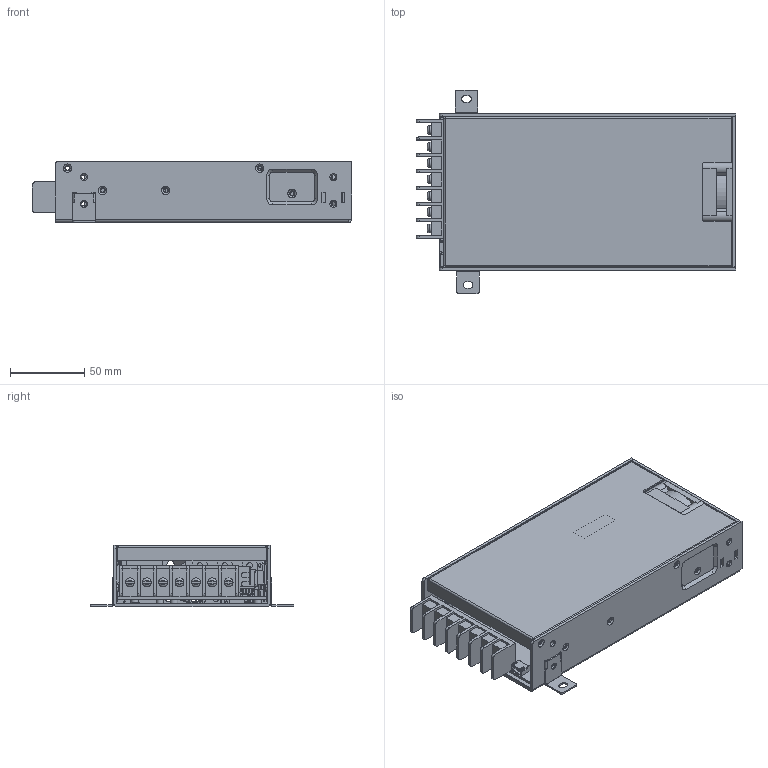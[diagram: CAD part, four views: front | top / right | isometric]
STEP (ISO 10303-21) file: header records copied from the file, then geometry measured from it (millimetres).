
FILE_DESCRIPTION(('Creo Elements/Direct Modeling STEP Export'),'2;1');
FILE_NAME('HRPG-300.stp','2024-04-11T10:43:45',(''),(''),'PTC Creo Elements/Direct Modeling STEP processor for AP214 (Solid Model)','PTC Creo Elements/Direct Modeling 19.0E 27-Jun-2016 (C) Parametric Technology GmbH','');
FILE_SCHEMA(('AUTOMOTIVE_DESIGN { 1 0 10303 214 1 1 1 1 }'));
Length unit declared in the file: millimetre
Products named in the file (47): p2.1.1; p2.1.1.1; 装配1; MOS15.5x10.2.1.1; MOS15.5x10.1.1.1.3.1.1.1.2.1; MOS; ˋTˋwéK2.2; p7.1; p2; HS3; HS1; M3-7L.1.1.1; ÊU£_; BASE; ƒè¿q£èçP; a1; 26D77668-81B1-466B-87E3-FC1E3B3698CD; SW3dPS-fan-40x40x15.STEP; DD; FF; SM; tn.1.1.1.1; PCB; a1.1; a3; clip.1; uu.3; ˋTˋwÊª1; p3; p1; p1.3.1.1; p1.3.1; HRP-300; HRP-300-221116.stp; p2.1; p2.2; 1.2.1; 1.2.1.1; 1.2.1.2; 1.2.1.1.1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
Assembly tree (60 placements, depth 6):
  HRP-300.stp
    装配1
      1.2.1.1.1
      1.2.1.2
      1.2.1.1
      1.2.1
      p2.1.1
      p2
      p2.2
      p1
      p2.1
    HRP-300-221116.stp
      HRP-300
        p1.3.1
        p1.3.1.1
        p1
        p3
        ˋTˋwÊª1  x3
        uu.3
        clip.1
        a3
          a1.1
            PCB
            tn.1.1.1.1
        SM
        FF
        DD
        SW3dPS-fan-40x40x15.STEP
          26D77668-81B1-466B-87E3-FC1E3B3698CD
        a1
          ƒè¿q£èçP
          BASE
            M3-7L.1.1.1  x5
            p2
            ÊU£_
          HS1
            p2
          HS3
            p2
            p7.1  x2
          ˋTˋwéK2.2
          MOS
            MOS15.5x10.1.1.1.3.1.1.1.2.1  x8
            MOS15.5x10.2.1.1
      装配1
        p2.1.1.1
        p2.1.1
Bounding box: 214.5 x 137 x 41 mm (x, y, z)
Volume: 222130 mm3; surface area: 261689.3 mm2
Topology: 47 solids, 47 shells, 1782 faces, 4562 edges, 2968 vertices
Faces by surface type: plane 1074, cylinder 542, torus 104, cone 62
Entity records: 47520 total; most frequent: CARTESIAN_POINT 10166, ORIENTED_EDGE 7840, DIRECTION 7097, EDGE_CURVE 3920, VERTEX_POINT 2540, VECTOR 2451, LINE 2451, AXIS2_PLACEMENT_3D 2323
